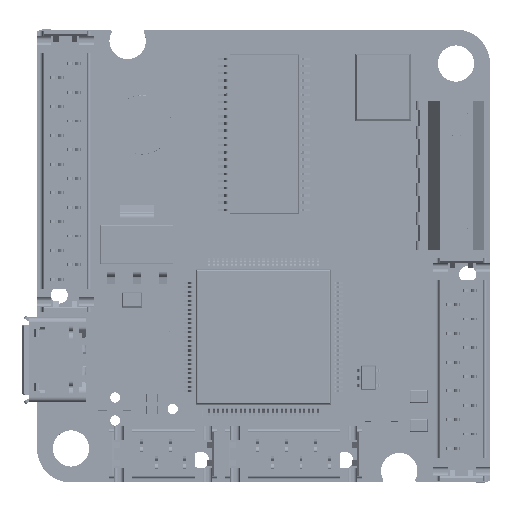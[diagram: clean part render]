
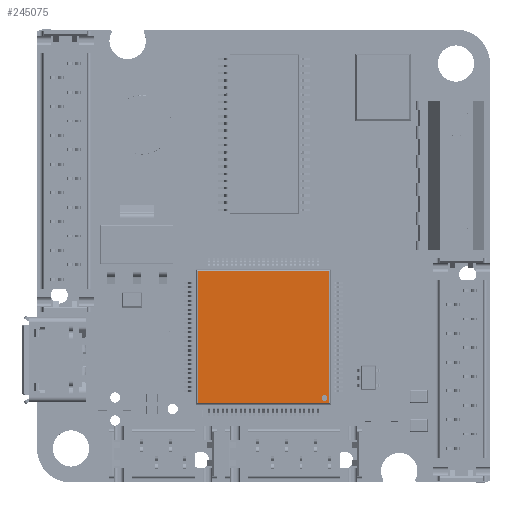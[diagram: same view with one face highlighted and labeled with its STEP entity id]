
A CAD part, top view. The second image highlights one B-rep face of the part: STEP entity #245075.
In plain terms, the highlighted planar face has unit normal (0, 0, 1) as drawn and (0, 1, 0) by its records, which use the part's own axes.
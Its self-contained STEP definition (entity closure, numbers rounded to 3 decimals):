
#13079 = ORIENTED_EDGE ( 'NONE', *, *, #276653, .F. ) ;
#20758 = AXIS2_PLACEMENT_3D ( 'NONE', #342630, #406077, #217405 ) ;
#27213 = CARTESIAN_POINT ( 'NONE',  ( -5.808, 1.35, 5.889 ) ) ;
#35444 = EDGE_CURVE ( 'NONE', #65518, #84617, #146573, .T. ) ;
#37929 = CARTESIAN_POINT ( 'NONE',  ( -5.389, 1.35, -5.653 ) ) ;
#38298 = CARTESIAN_POINT ( 'NONE',  ( -5.808, 1.35, 5.808 ) ) ;
#47389 = DIRECTION ( 'NONE',  ( 0., 1., 0. ) ) ;
#51010 = VECTOR ( 'NONE', #119561, 1000. ) ;
#62373 = ORIENTED_EDGE ( 'NONE', *, *, #35444, .T. ) ;
#65518 = VERTEX_POINT ( 'NONE', #38298 ) ;
#84617 = VERTEX_POINT ( 'NONE', #118077 ) ;
#87144 = VERTEX_POINT ( 'NONE', #37929 ) ;
#89462 = ORIENTED_EDGE ( 'NONE', *, *, #165026, .T. ) ;
#106777 = PLANE ( 'NONE',  #399467 ) ;
#109456 = CARTESIAN_POINT ( 'NONE',  ( -6., 1.35, -6. ) ) ;
#114020 = CIRCLE ( 'NONE', #20758, 0.264 ) ;
#118077 = CARTESIAN_POINT ( 'NONE',  ( 5.808, 1.35, 5.808 ) ) ;
#119561 = DIRECTION ( 'NONE',  ( 0., 0., 1. ) ) ;
#123234 = ORIENTED_EDGE ( 'NONE', *, *, #278361, .F. ) ;
#126747 = ORIENTED_EDGE ( 'NONE', *, *, #367223, .T. ) ;
#145278 = DIRECTION ( 'NONE',  ( 0., 0., -1. ) ) ;
#146573 = LINE ( 'NONE', #156748, #304407 ) ;
#147481 = EDGE_LOOP ( 'NONE', ( #123234, #13079 ) ) ;
#153327 = EDGE_CURVE ( 'NONE', #306627, #252302, #247720, .T. ) ;
#155389 = DIRECTION ( 'NONE',  ( 1., 0., 0. ) ) ;
#156748 = CARTESIAN_POINT ( 'NONE',  ( 5.889, 1.35, 5.808 ) ) ;
#165026 = EDGE_CURVE ( 'NONE', #84617, #306627, #183005, .T. ) ;
#183005 = LINE ( 'NONE', #396128, #404704 ) ;
#204778 = DIRECTION ( 'NONE',  ( 0., 0., -1. ) ) ;
#217405 = DIRECTION ( 'NONE',  ( 0., 0., 1. ) ) ;
#237886 = VECTOR ( 'NONE', #358381, 1000. ) ;
#241771 = CARTESIAN_POINT ( 'NONE',  ( -5.389, 1.35, -5.389 ) ) ;
#241943 = AXIS2_PLACEMENT_3D ( 'NONE', #241771, #47389, #270622 ) ;
#245075 = ADVANCED_FACE ( 'NONE', ( #360994, #306953 ), #106777, .F. ) ;
#247720 = LINE ( 'NONE', #299130, #237886 ) ;
#252302 = VERTEX_POINT ( 'NONE', #400062 ) ;
#261524 = EDGE_LOOP ( 'NONE', ( #126747, #62373, #89462, #277622 ) ) ;
#270622 = DIRECTION ( 'NONE',  ( 0., 0., 1. ) ) ;
#276653 = EDGE_CURVE ( 'NONE', #87144, #368251, #347317, .T. ) ;
#277622 = ORIENTED_EDGE ( 'NONE', *, *, #153327, .T. ) ;
#278361 = EDGE_CURVE ( 'NONE', #368251, #87144, #114020, .T. ) ;
#299130 = CARTESIAN_POINT ( 'NONE',  ( -5.889, 1.35, -5.808 ) ) ;
#303574 = CARTESIAN_POINT ( 'NONE',  ( -5.389, 1.35, -5.126 ) ) ;
#304407 = VECTOR ( 'NONE', #155389, 1000. ) ;
#306627 = VERTEX_POINT ( 'NONE', #308265 ) ;
#306953 = FACE_OUTER_BOUND ( 'NONE', #261524, .T. ) ;
#308265 = CARTESIAN_POINT ( 'NONE',  ( 5.808, 1.35, -5.808 ) ) ;
#329991 = DIRECTION ( 'NONE',  ( 0., -1., 0. ) ) ;
#342630 = CARTESIAN_POINT ( 'NONE',  ( -5.389, 1.35, -5.389 ) ) ;
#347317 = CIRCLE ( 'NONE', #241943, 0.264 ) ;
#358381 = DIRECTION ( 'NONE',  ( -1., 0., 0. ) ) ;
#360994 = FACE_BOUND ( 'NONE', #147481, .T. ) ;
#367223 = EDGE_CURVE ( 'NONE', #252302, #65518, #386344, .T. ) ;
#368251 = VERTEX_POINT ( 'NONE', #303574 ) ;
#386344 = LINE ( 'NONE', #27213, #51010 ) ;
#396128 = CARTESIAN_POINT ( 'NONE',  ( 5.808, 1.35, -5.889 ) ) ;
#399467 = AXIS2_PLACEMENT_3D ( 'NONE', #109456, #329991, #204778 ) ;
#400062 = CARTESIAN_POINT ( 'NONE',  ( -5.808, 1.35, -5.808 ) ) ;
#404704 = VECTOR ( 'NONE', #145278, 1000. ) ;
#406077 = DIRECTION ( 'NONE',  ( 0., 1., 0. ) ) ;
